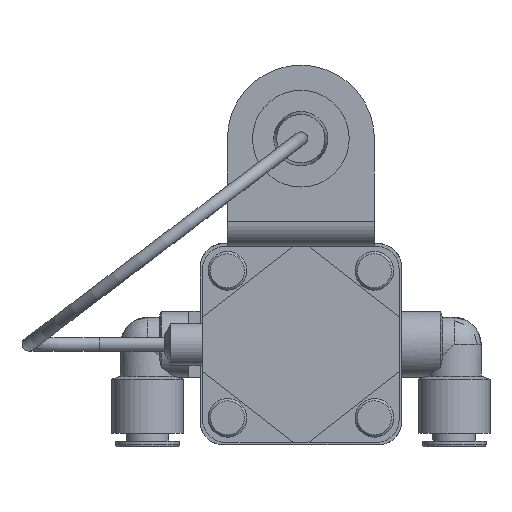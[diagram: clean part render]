
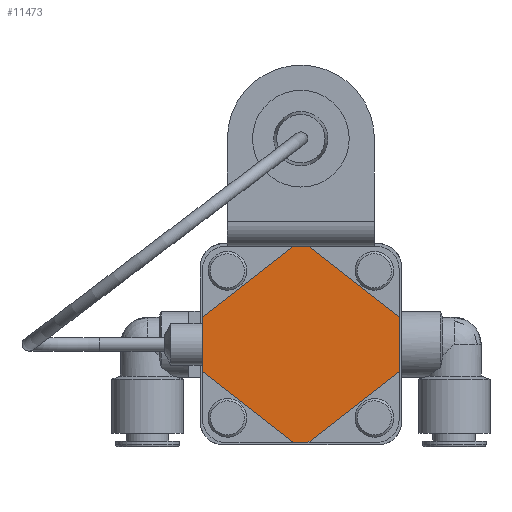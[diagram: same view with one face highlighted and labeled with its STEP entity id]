
A CAD part, front view. The second image highlights one B-rep face of the part: STEP entity #11473.
In plain terms, the highlighted planar face has unit normal (0, -1, 0).
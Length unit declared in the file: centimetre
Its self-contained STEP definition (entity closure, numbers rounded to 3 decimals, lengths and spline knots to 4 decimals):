
#1116=LINE('',#20357,#1903);
#1120=LINE('',#20366,#1907);
#1121=LINE('',#20368,#1908);
#1122=LINE('',#20369,#1909);
#1123=LINE('',#20371,#1910);
#1124=LINE('',#20373,#1911);
#1125=LINE('',#20375,#1912);
#1126=LINE('',#20376,#1913);
#1903=VECTOR('',#16283,1.);
#1907=VECTOR('',#16289,1.);
#1908=VECTOR('',#16290,1.);
#1909=VECTOR('',#16291,1.);
#1910=VECTOR('',#16292,1.);
#1911=VECTOR('',#16293,1.);
#1912=VECTOR('',#16294,1.);
#1913=VECTOR('',#16295,1.);
#2915=FACE_OUTER_BOUND('',#3710,.T.);
#3710=EDGE_LOOP('',(#10182,#10183,#10184,#10185,#10186,#10187,#10188,#10189));
#5389=VERTEX_POINT('',#20354);
#5390=VERTEX_POINT('',#20356);
#5393=VERTEX_POINT('',#20364);
#5394=VERTEX_POINT('',#20365);
#5395=VERTEX_POINT('',#20367);
#5396=VERTEX_POINT('',#20370);
#5397=VERTEX_POINT('',#20372);
#5398=VERTEX_POINT('',#20374);
#7002=EDGE_CURVE('',#5389,#5390,#1116,.T.);
#7006=EDGE_CURVE('',#5393,#5394,#1120,.T.);
#7007=EDGE_CURVE('',#5395,#5394,#1121,.T.);
#7008=EDGE_CURVE('',#5395,#5390,#1122,.T.);
#7009=EDGE_CURVE('',#5389,#5396,#1123,.T.);
#7010=EDGE_CURVE('',#5397,#5396,#1124,.T.);
#7011=EDGE_CURVE('',#5397,#5398,#1125,.T.);
#7012=EDGE_CURVE('',#5393,#5398,#1126,.T.);
#10182=ORIENTED_EDGE('',*,*,#7006,.T.);
#10183=ORIENTED_EDGE('',*,*,#7007,.F.);
#10184=ORIENTED_EDGE('',*,*,#7008,.T.);
#10185=ORIENTED_EDGE('',*,*,#7002,.F.);
#10186=ORIENTED_EDGE('',*,*,#7009,.T.);
#10187=ORIENTED_EDGE('',*,*,#7010,.F.);
#10188=ORIENTED_EDGE('',*,*,#7011,.T.);
#10189=ORIENTED_EDGE('',*,*,#7012,.F.);
#10785=PLANE('',#12874);
#11473=ADVANCED_FACE('',(#2915),#10785,.F.);
#12874=AXIS2_PLACEMENT_3D('',#20363,#16287,#16288);
#16283=DIRECTION('',(-1.,0.,0.));
#16287=DIRECTION('center_axis',(0.,1.,0.));
#16288=DIRECTION('ref_axis',(1.,0.,0.));
#16289=DIRECTION('',(-0.788,0.,-0.616));
#16290=DIRECTION('',(0.,0.,1.));
#16291=DIRECTION('',(0.788,0.,-0.616));
#16292=DIRECTION('',(0.788,0.,0.616));
#16293=DIRECTION('',(0.,0.,-1.));
#16294=DIRECTION('',(-0.788,0.,0.616));
#16295=DIRECTION('',(1.,0.,0.));
#20354=CARTESIAN_POINT('',(0.1843,-34.355,-2.54));
#20356=CARTESIAN_POINT('',(-0.1843,-34.355,-2.54));
#20357=CARTESIAN_POINT('',(2.54,-34.355,-2.54));
#20363=CARTESIAN_POINT('Origin',(0.,-34.355,0.));
#20364=CARTESIAN_POINT('',(-0.1843,-34.355,2.54));
#20365=CARTESIAN_POINT('',(-2.54,-34.355,0.6995));
#20366=CARTESIAN_POINT('',(-0.7432,-34.355,2.1033));
#20367=CARTESIAN_POINT('',(-2.54,-34.355,-0.6995));
#20368=CARTESIAN_POINT('',(-2.54,-34.355,-2.54));
#20369=CARTESIAN_POINT('',(-0.7432,-34.355,-2.1033));
#20370=CARTESIAN_POINT('',(2.54,-34.355,-0.6995));
#20371=CARTESIAN_POINT('',(0.7432,-34.355,-2.1033));
#20372=CARTESIAN_POINT('',(2.54,-34.355,0.6995));
#20373=CARTESIAN_POINT('',(2.54,-34.355,2.54));
#20374=CARTESIAN_POINT('',(0.1843,-34.355,2.54));
#20375=CARTESIAN_POINT('',(0.7432,-34.355,2.1033));
#20376=CARTESIAN_POINT('',(-2.54,-34.355,2.54));
